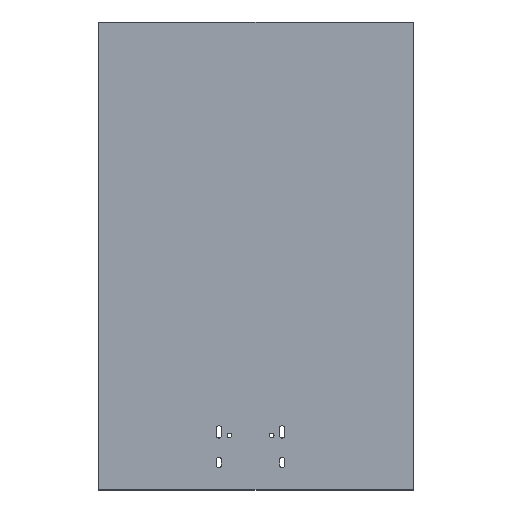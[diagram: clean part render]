
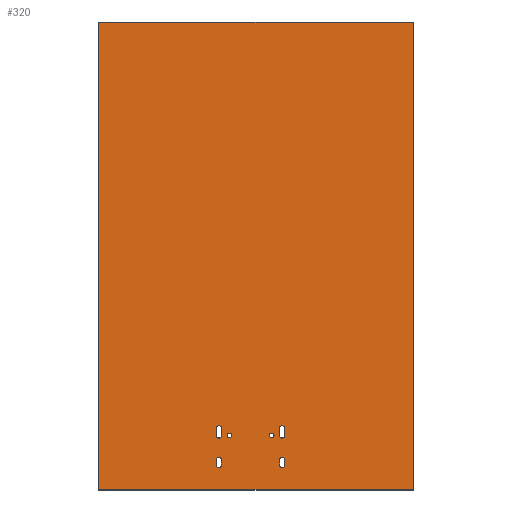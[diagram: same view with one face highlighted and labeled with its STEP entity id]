
A CAD part, top view. The second image highlights one B-rep face of the part: STEP entity #320.
In plain terms, the highlighted planar face has unit normal (0, 0, 1).
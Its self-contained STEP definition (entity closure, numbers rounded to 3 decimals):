
#42 = VERTEX_POINT('',#43);
#43 = CARTESIAN_POINT('',(74.5,-102.,1.51));
#49 = EDGE_CURVE('',#42,#50,#52,.T.);
#50 = VERTEX_POINT('',#51);
#51 = CARTESIAN_POINT('',(31.5,-102.,1.51));
#52 = LINE('',#53,#54);
#53 = CARTESIAN_POINT('',(74.5,-102.,1.51));
#54 = VECTOR('',#55,1.);
#55 = DIRECTION('',(-1.,0.,0.));
#82 = VERTEX_POINT('',#83);
#83 = CARTESIAN_POINT('',(74.5,-38.,1.51));
#89 = EDGE_CURVE('',#82,#42,#90,.T.);
#90 = LINE('',#91,#92);
#91 = CARTESIAN_POINT('',(74.5,-38.,1.51));
#92 = VECTOR('',#93,1.);
#93 = DIRECTION('',(0.,-1.,0.));
#111 = EDGE_CURVE('',#50,#112,#114,.T.);
#112 = VERTEX_POINT('',#113);
#113 = CARTESIAN_POINT('',(31.5,-38.,1.51));
#114 = LINE('',#115,#116);
#115 = CARTESIAN_POINT('',(31.5,-102.,1.51));
#116 = VECTOR('',#117,1.);
#117 = DIRECTION('',(0.,1.,0.));
#320 = ADVANCED_FACE('',(#321,#332,#368,#404,#440,#451,#462),#498,.T.);
#321 = FACE_BOUND('',#322,.T.);
#322 = EDGE_LOOP('',(#323,#324,#325,#331));
#323 = ORIENTED_EDGE('',*,*,#49,.F.);
#324 = ORIENTED_EDGE('',*,*,#89,.F.);
#325 = ORIENTED_EDGE('',*,*,#326,.F.);
#326 = EDGE_CURVE('',#112,#82,#327,.T.);
#327 = LINE('',#328,#329);
#328 = CARTESIAN_POINT('',(31.5,-38.,1.51));
#329 = VECTOR('',#330,1.);
#330 = DIRECTION('',(1.,0.,0.));
#331 = ORIENTED_EDGE('',*,*,#111,.F.);
#332 = FACE_BOUND('',#333,.T.);
#333 = EDGE_LOOP('',(#334,#345,#353,#362));
#334 = ORIENTED_EDGE('',*,*,#335,.T.);
#335 = EDGE_CURVE('',#336,#338,#340,.T.);
#336 = VERTEX_POINT('',#337);
#337 = CARTESIAN_POINT('',(48.28,-98.59,1.51));
#338 = VERTEX_POINT('',#339);
#339 = CARTESIAN_POINT('',(47.58,-98.59,1.51));
#340 = CIRCLE('',#341,0.35);
#341 = AXIS2_PLACEMENT_3D('',#342,#343,#344);
#342 = CARTESIAN_POINT('',(47.93,-98.59,1.51));
#343 = DIRECTION('',(-0.,0.,-1.));
#344 = DIRECTION('',(-1.,0.,0.));
#345 = ORIENTED_EDGE('',*,*,#346,.T.);
#346 = EDGE_CURVE('',#338,#347,#349,.T.);
#347 = VERTEX_POINT('',#348);
#348 = CARTESIAN_POINT('',(47.58,-97.89,1.51));
#349 = LINE('',#350,#351);
#350 = CARTESIAN_POINT('',(47.58,-48.945,1.51));
#351 = VECTOR('',#352,1.);
#352 = DIRECTION('',(-0.,1.,0.));
#353 = ORIENTED_EDGE('',*,*,#354,.T.);
#354 = EDGE_CURVE('',#347,#355,#357,.T.);
#355 = VERTEX_POINT('',#356);
#356 = CARTESIAN_POINT('',(48.28,-97.89,1.51));
#357 = CIRCLE('',#358,0.35);
#358 = AXIS2_PLACEMENT_3D('',#359,#360,#361);
#359 = CARTESIAN_POINT('',(47.93,-97.89,1.51));
#360 = DIRECTION('',(0.,-0.,-1.));
#361 = DIRECTION('',(1.,0.,-0.));
#362 = ORIENTED_EDGE('',*,*,#363,.T.);
#363 = EDGE_CURVE('',#355,#336,#364,.T.);
#364 = LINE('',#365,#366);
#365 = CARTESIAN_POINT('',(48.28,-49.295,1.51));
#366 = VECTOR('',#367,1.);
#367 = DIRECTION('',(0.,-1.,0.));
#368 = FACE_BOUND('',#369,.T.);
#369 = EDGE_LOOP('',(#370,#381,#389,#398));
#370 = ORIENTED_EDGE('',*,*,#371,.T.);
#371 = EDGE_CURVE('',#372,#374,#376,.T.);
#372 = VERTEX_POINT('',#373);
#373 = CARTESIAN_POINT('',(56.92,-98.59,1.51));
#374 = VERTEX_POINT('',#375);
#375 = CARTESIAN_POINT('',(56.22,-98.59,1.51));
#376 = CIRCLE('',#377,0.35);
#377 = AXIS2_PLACEMENT_3D('',#378,#379,#380);
#378 = CARTESIAN_POINT('',(56.57,-98.59,1.51));
#379 = DIRECTION('',(-0.,0.,-1.));
#380 = DIRECTION('',(-1.,0.,0.));
#381 = ORIENTED_EDGE('',*,*,#382,.T.);
#382 = EDGE_CURVE('',#374,#383,#385,.T.);
#383 = VERTEX_POINT('',#384);
#384 = CARTESIAN_POINT('',(56.22,-97.89,1.51));
#385 = LINE('',#386,#387);
#386 = CARTESIAN_POINT('',(56.22,-48.945,1.51));
#387 = VECTOR('',#388,1.);
#388 = DIRECTION('',(-0.,1.,0.));
#389 = ORIENTED_EDGE('',*,*,#390,.T.);
#390 = EDGE_CURVE('',#383,#391,#393,.T.);
#391 = VERTEX_POINT('',#392);
#392 = CARTESIAN_POINT('',(56.92,-97.89,1.51));
#393 = CIRCLE('',#394,0.35);
#394 = AXIS2_PLACEMENT_3D('',#395,#396,#397);
#395 = CARTESIAN_POINT('',(56.57,-97.89,1.51));
#396 = DIRECTION('',(0.,-0.,-1.));
#397 = DIRECTION('',(1.,0.,-0.));
#398 = ORIENTED_EDGE('',*,*,#399,.T.);
#399 = EDGE_CURVE('',#391,#372,#400,.T.);
#400 = LINE('',#401,#402);
#401 = CARTESIAN_POINT('',(56.92,-49.295,1.51));
#402 = VECTOR('',#403,1.);
#403 = DIRECTION('',(0.,-1.,0.));
#404 = FACE_BOUND('',#405,.T.);
#405 = EDGE_LOOP('',(#406,#417,#425,#434));
#406 = ORIENTED_EDGE('',*,*,#407,.T.);
#407 = EDGE_CURVE('',#408,#410,#412,.T.);
#408 = VERTEX_POINT('',#409);
#409 = CARTESIAN_POINT('',(48.28,-94.56,1.51));
#410 = VERTEX_POINT('',#411);
#411 = CARTESIAN_POINT('',(47.58,-94.56,1.51));
#412 = CIRCLE('',#413,0.35);
#413 = AXIS2_PLACEMENT_3D('',#414,#415,#416);
#414 = CARTESIAN_POINT('',(47.93,-94.56,1.51));
#415 = DIRECTION('',(-0.,0.,-1.));
#416 = DIRECTION('',(-1.,0.,0.));
#417 = ORIENTED_EDGE('',*,*,#418,.T.);
#418 = EDGE_CURVE('',#410,#419,#421,.T.);
#419 = VERTEX_POINT('',#420);
#420 = CARTESIAN_POINT('',(47.58,-93.56,1.51));
#421 = LINE('',#422,#423);
#422 = CARTESIAN_POINT('',(47.58,-46.78,1.51));
#423 = VECTOR('',#424,1.);
#424 = DIRECTION('',(-0.,1.,0.));
#425 = ORIENTED_EDGE('',*,*,#426,.T.);
#426 = EDGE_CURVE('',#419,#427,#429,.T.);
#427 = VERTEX_POINT('',#428);
#428 = CARTESIAN_POINT('',(48.28,-93.56,1.51));
#429 = CIRCLE('',#430,0.35);
#430 = AXIS2_PLACEMENT_3D('',#431,#432,#433);
#431 = CARTESIAN_POINT('',(47.93,-93.56,1.51));
#432 = DIRECTION('',(0.,-0.,-1.));
#433 = DIRECTION('',(1.,0.,-0.));
#434 = ORIENTED_EDGE('',*,*,#435,.T.);
#435 = EDGE_CURVE('',#427,#408,#436,.T.);
#436 = LINE('',#437,#438);
#437 = CARTESIAN_POINT('',(48.28,-47.28,1.51));
#438 = VECTOR('',#439,1.);
#439 = DIRECTION('',(0.,-1.,0.));
#440 = FACE_BOUND('',#441,.T.);
#441 = EDGE_LOOP('',(#442));
#442 = ORIENTED_EDGE('',*,*,#443,.T.);
#443 = EDGE_CURVE('',#444,#444,#446,.T.);
#444 = VERTEX_POINT('',#445);
#445 = CARTESIAN_POINT('',(49.36,-94.865,1.51));
#446 = CIRCLE('',#447,0.325);
#447 = AXIS2_PLACEMENT_3D('',#448,#449,#450);
#448 = CARTESIAN_POINT('',(49.36,-94.54,1.51));
#449 = DIRECTION('',(-0.,0.,-1.));
#450 = DIRECTION('',(-0.,-1.,0.));
#451 = FACE_BOUND('',#452,.T.);
#452 = EDGE_LOOP('',(#453));
#453 = ORIENTED_EDGE('',*,*,#454,.T.);
#454 = EDGE_CURVE('',#455,#455,#457,.T.);
#455 = VERTEX_POINT('',#456);
#456 = CARTESIAN_POINT('',(55.14,-94.865,1.51));
#457 = CIRCLE('',#458,0.325);
#458 = AXIS2_PLACEMENT_3D('',#459,#460,#461);
#459 = CARTESIAN_POINT('',(55.14,-94.54,1.51));
#460 = DIRECTION('',(-0.,0.,-1.));
#461 = DIRECTION('',(-0.,-1.,0.));
#462 = FACE_BOUND('',#463,.T.);
#463 = EDGE_LOOP('',(#464,#475,#483,#492));
#464 = ORIENTED_EDGE('',*,*,#465,.T.);
#465 = EDGE_CURVE('',#466,#468,#470,.T.);
#466 = VERTEX_POINT('',#467);
#467 = CARTESIAN_POINT('',(56.92,-94.56,1.51));
#468 = VERTEX_POINT('',#469);
#469 = CARTESIAN_POINT('',(56.22,-94.56,1.51));
#470 = CIRCLE('',#471,0.35);
#471 = AXIS2_PLACEMENT_3D('',#472,#473,#474);
#472 = CARTESIAN_POINT('',(56.57,-94.56,1.51));
#473 = DIRECTION('',(-0.,0.,-1.));
#474 = DIRECTION('',(-1.,0.,0.));
#475 = ORIENTED_EDGE('',*,*,#476,.T.);
#476 = EDGE_CURVE('',#468,#477,#479,.T.);
#477 = VERTEX_POINT('',#478);
#478 = CARTESIAN_POINT('',(56.22,-93.56,1.51));
#479 = LINE('',#480,#481);
#480 = CARTESIAN_POINT('',(56.22,-46.78,1.51));
#481 = VECTOR('',#482,1.);
#482 = DIRECTION('',(-0.,1.,0.));
#483 = ORIENTED_EDGE('',*,*,#484,.T.);
#484 = EDGE_CURVE('',#477,#485,#487,.T.);
#485 = VERTEX_POINT('',#486);
#486 = CARTESIAN_POINT('',(56.92,-93.56,1.51));
#487 = CIRCLE('',#488,0.35);
#488 = AXIS2_PLACEMENT_3D('',#489,#490,#491);
#489 = CARTESIAN_POINT('',(56.57,-93.56,1.51));
#490 = DIRECTION('',(0.,-0.,-1.));
#491 = DIRECTION('',(1.,0.,-0.));
#492 = ORIENTED_EDGE('',*,*,#493,.T.);
#493 = EDGE_CURVE('',#485,#466,#494,.T.);
#494 = LINE('',#495,#496);
#495 = CARTESIAN_POINT('',(56.92,-47.28,1.51));
#496 = VECTOR('',#497,1.);
#497 = DIRECTION('',(0.,-1.,0.));
#498 = PLANE('',#499);
#499 = AXIS2_PLACEMENT_3D('',#500,#501,#502);
#500 = CARTESIAN_POINT('',(0.,0.,1.51));
#501 = DIRECTION('',(0.,0.,1.));
#502 = DIRECTION('',(1.,0.,-0.));
